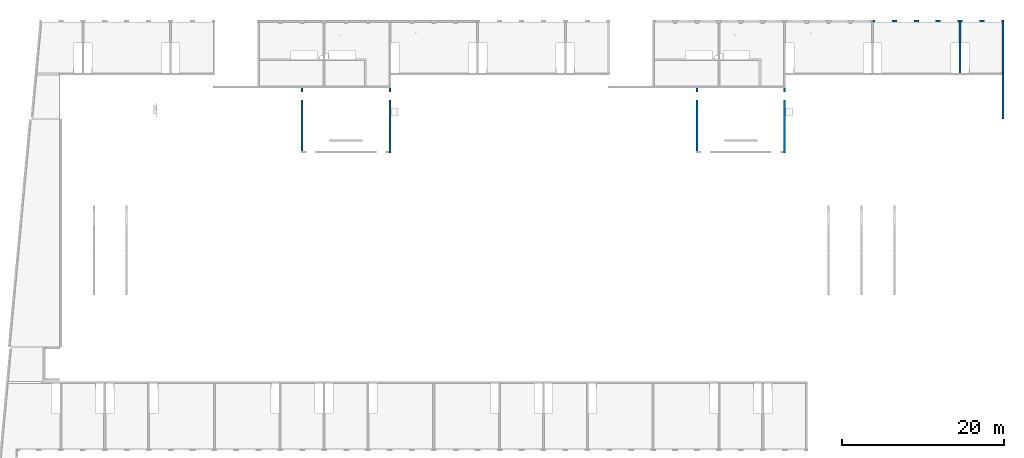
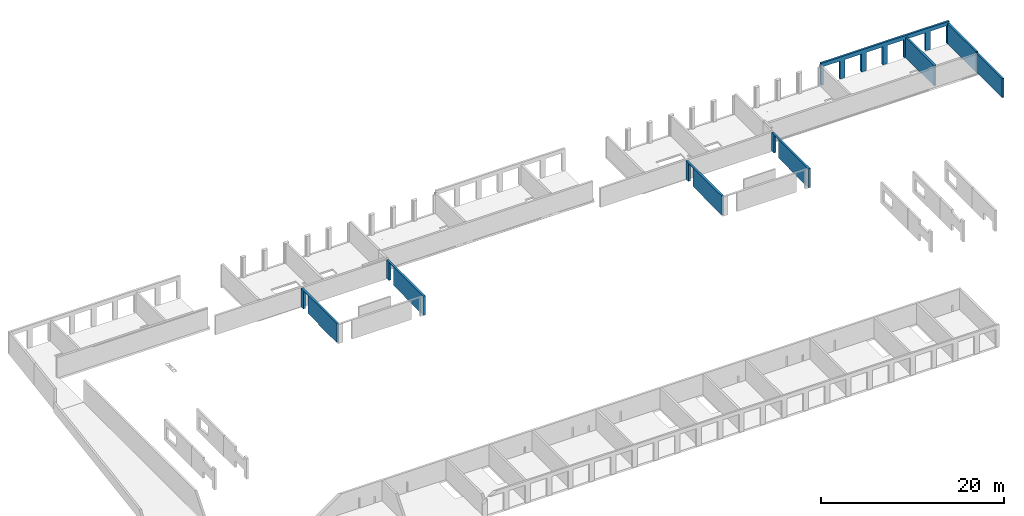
# One storey, part 9 of 12: 8 walls, 8 openings.
"""IFC2X3 building model written with IfcOpenShell, lengths in millimetres."""

from ifc_helpers import new_model, entity, si_unit, converted_unit, derived_unit, direction, frame, frame_2d, origin, place, context, subcontext, project, spatial, rectangle, extrude, faceted_brep, material, layer, layer_set, layer_usage, type_object, element, save


model = new_model("IFC2X3")

# Units and contexts
model_context = context("Model", 3, precision=0.01, world=origin(), true_north=direction((6.12303176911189e-17, 1.0)))
body_context = subcontext(model_context, "Body", "Model", "MODEL_VIEW")
ifc_project = project(units=[si_unit("LENGTHUNIT", "METRE", prefix="MILLI"), si_unit("AREAUNIT", "SQUARE_METRE"), si_unit("VOLUMEUNIT", "CUBIC_METRE"), converted_unit("PLANEANGLEUNIT", "DEGREE", entity("IfcRatioMeasure", 0.0174532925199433), si_unit("PLANEANGLEUNIT", "RADIAN"), dimensions=[0, 0, 0, 0, 0, 0, 0]), si_unit("MASSUNIT", "GRAM", prefix="KILO"), derived_unit("MASSDENSITYUNIT", [(si_unit("MASSUNIT", "GRAM", prefix="KILO"), 1), (si_unit("LENGTHUNIT", "METRE"), -3)]), si_unit("TIMEUNIT", "SECOND"), si_unit("FREQUENCYUNIT", "HERTZ"), si_unit("THERMODYNAMICTEMPERATUREUNIT", "DEGREE_CELSIUS"), derived_unit("THERMALTRANSMITTANCEUNIT", [(si_unit("MASSUNIT", "GRAM", prefix="KILO"), 1), (si_unit("THERMODYNAMICTEMPERATUREUNIT", "KELVIN"), -1), (si_unit("TIMEUNIT", "SECOND"), -3)]), derived_unit("VOLUMETRICFLOWRATEUNIT", [(si_unit("LENGTHUNIT", "METRE"), 3), (si_unit("TIMEUNIT", "SECOND"), -1)]), si_unit("ELECTRICCURRENTUNIT", "AMPERE"), si_unit("ELECTRICVOLTAGEUNIT", "VOLT"), si_unit("POWERUNIT", "WATT"), si_unit("FORCEUNIT", "NEWTON", prefix="KILO"), si_unit("ILLUMINANCEUNIT", "LUX"), si_unit("LUMINOUSFLUXUNIT", "LUMEN"), si_unit("LUMINOUSINTENSITYUNIT", "CANDELA"), derived_unit("USERDEFINED", [(si_unit("MASSUNIT", "GRAM", prefix="KILO"), -1), (si_unit("LENGTHUNIT", "METRE"), -2), (si_unit("TIMEUNIT", "SECOND"), 3), (si_unit("LUMINOUSFLUXUNIT", "LUMEN"), 1)]), derived_unit("LINEARVELOCITYUNIT", [(si_unit("LENGTHUNIT", "METRE"), 1), (si_unit("TIMEUNIT", "SECOND"), -1)]), si_unit("PRESSUREUNIT", "PASCAL"), derived_unit("USERDEFINED", [(si_unit("LENGTHUNIT", "METRE"), -2), (si_unit("MASSUNIT", "GRAM", prefix="KILO"), 1), (si_unit("TIMEUNIT", "SECOND"), -2)])], contexts=[model_context])

# Site, building, storey
site_placement = place(None, origin())
site = spatial("IfcSite", under=ifc_project, at=site_placement, Name="Default", CompositionType="ELEMENT")
building_placement = place(site_placement, origin())
building = spatial("IfcBuilding", under=site, at=building_placement, Name="niet gebruiken", CompositionType="ELEMENT")
storey_placement = place(building_placement, frame((0.0, 0.0, 6660.0)))
storey = spatial("IfcBuildingStorey", under=building, at=storey_placement, Name="02 tweede verdieping", CompositionType="ELEMENT", Elevation=6660.00000000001)

# Walls
ifc_material_1 = material(Name="NLRS_f2_beton ihwg")
ifc_layer_1 = layer(ifc_material_1, 250.0)
ifc_layer_set_1 = layer_set([ifc_layer_1], Name="Basic Wall:NLRS_22.21_WA_beton ihwg d=250_gen")
ifc_layer_usage_1 = layer_usage(ifc_layer_set_1, "AXIS2", "NEGATIVE", 125.0)
wall_type_1 = type_object("IfcWallType", Name="Basic Wall:NLRS_22.21_WA_beton ihwg d=250_gen", PredefinedType="STANDARD", material=ifc_layer_set_1)
wall_1_placement = place(storey_placement, frame((118800.0, 46746.0, -90.0), z_axis=(0.0, 0.0, 1.0), x_axis=(0.0, 1.0, 0.0)))
element("IfcWallStandardCase", 1, at=wall_1_placement, inside=storey, type_object=wall_type_1, material=ifc_layer_usage_1, Name="Basic Wall:NLRS_22.21_WA_beton ihwg d=250_gen", ObjectType="Basic Wall:NLRS_22.21_WA_beton ihwg d=250_gen", context=body_context, shape_type="SweptSolid", body=[
    extrude(rectangle(XDim=6239.99999999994, YDim=250.000000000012, at=frame_2d((3119.99999999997, -3.26849658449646e-12), x_axis=(-1.0, 0.0))), origin(), (0.0, 0.0, 1.0), 2720.00000000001),
])
wall_2_placement = place(storey_placement, frame((48600.0, 36856.0, -140.0), z_axis=(0.0, 0.0, 1.0), x_axis=(0.0, 1.0, 0.0)))
element("IfcWall", 2, at=wall_2_placement, inside=storey, type_object=wall_type_1, Name="Basic Wall:NLRS_22.21_WA_beton ihwg d=250_gen", ObjectType="Basic Wall:NLRS_22.21_WA_beton ihwg d=250_gen", context=body_context, shape_type="Brep", body=[
    faceted_brep([(6530.0, -125.0, 2470.0), (7555.0, -125.0, 2470.0), (7555.0, -125.0, 90.0), (8050.0, -125.0, 90.0), (8050.0, -125.0, 2550.0), (0.0, -125.0, 2550.0), (0.0, -125.0, 1940.0), (0.0, -125.0, 0.0), (4205.0, -125.0, 0.0), (4205.0, -125.0, 90.0), (4630.0, -125.0, 90.0), (5530.0, -125.0, 90.0), (6530.0, -125.0, 90.0), (7555.0, 125.0, 2470.0), (6530.0, 125.0, 2470.0), (6530.0, 125.0, 90.0), (4205.0, 125.0, 90.0), (4205.0, 125.0, 0.0), (250.0, 125.0, 0.0), (0.0, 125.0, 0.0), (0.0, 125.0, 1940.0), (0.0, 125.0, 2550.0), (250.0, 125.0, 2550.0), (8050.0, 125.0, 2550.0), (8050.0, 125.0, 90.0), (7555.0, 125.0, 90.0), (8050.0, 105.0, 2550.0), (4205.0, 125.000150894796, 90.0)], [[[0, 1, 2, 3, 4, 5, 6, 7, 8, 9, 10, 11, 12]], [[13, 14, 15, 16, 17, 18, 19, 20, 21, 22, 23, 24, 25]], [[7, 19, 18, 17, 8]], [[14, 0, 12, 15]], [[0, 14, 13, 1]], [[1, 13, 25, 2]], [[19, 7, 6, 5, 21, 20]], [[5, 4, 26, 23, 22, 21]], [[9, 16, 15, 12, 11, 10]], [[27, 9, 8, 17]], [[23, 26, 4, 3, 24]], [[3, 2, 25, 24]]]),
])
wall_3_placement = place(storey_placement, frame((37800.0, 37106.0, -140.0), z_axis=(0.0, 0.0, 1.0), x_axis=(0.0, 1.0, 0.0)))
element("IfcWall", 3, at=wall_3_placement, inside=storey, type_object=wall_type_1, Name="Basic Wall:NLRS_22.21_WA_beton ihwg d=250_gen", ObjectType="Basic Wall:NLRS_22.21_WA_beton ihwg d=250_gen", context=body_context, shape_type="Brep", body=[
    faceted_brep([(6280.0, -125.0, 2470.0), (7305.0, -125.0, 2470.0), (7305.0, -125.0, 90.0), (7800.0, -125.0, 90.0), (7800.0, -125.0, 2550.0), (720.0, -125.0, 2550.0), (0.0, -125.0, 2550.0), (0.0, -125.0, 0.0), (3955.0, -125.0, 0.0), (3955.0, -125.0, 90.0), (6280.0, -125.0, 90.0), (7305.0, 125.0, 2470.0), (6280.0, 125.0, 2470.0), (6280.0, 125.0, 90.0), (5280.0, 125.0, 90.0), (5211.60019199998, 125.0, 90.0), (4596.60019199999, 125.0, 90.0), (4380.0, 125.0, 90.0), (3955.0, 125.0, 90.0), (3955.0, 125.0, 0.0), (0.0, 125.0, 0.0), (0.0, 125.0, 2550.0), (7800.0, 125.0, 2550.0), (7800.0, 125.0, 90.0), (7305.0, 125.0, 90.0)], [[[0, 1, 2, 3, 4, 5, 6, 7, 8, 9, 10]], [[11, 12, 13, 14, 15, 16, 17, 18, 19, 20, 21, 22, 23, 24]], [[7, 20, 19, 8]], [[22, 4, 3, 23]], [[12, 0, 10, 13]], [[0, 12, 11, 1]], [[1, 11, 24, 2]], [[20, 7, 6, 21]], [[5, 4, 22, 21, 6]], [[3, 2, 24, 23]], [[18, 9, 8, 19]], [[9, 18, 17, 16, 15, 14, 13, 10]]]),
])
ifc_layer_usage_2 = layer_usage(ifc_layer_set_1, "AXIS2", "NEGATIVE", 125.0)
wall_4_placement = place(storey_placement, frame((124075.0, 52986.0, -90.0), z_axis=(0.0, 0.0, 1.0), x_axis=(0.0, -1.0, 0.0)))
element("IfcWallStandardCase", 4, at=wall_4_placement, inside=storey, type_object=wall_type_1, material=ifc_layer_usage_2, Name="Basic Wall:NLRS_22.21_WA_beton ihwg d=250_gen", ObjectType="Basic Wall:NLRS_22.21_WA_beton ihwg d=250_gen", context=body_context, shape_type="SweptSolid", body=[
    extrude(rectangle(XDim=6239.99999999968, YDim=250.000000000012, at=frame_2d((3119.99999999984, -2.8421709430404e-14), x_axis=(-1.0, 0.0))), origin(), (0.0, 0.0, 1.0), 2720.000000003),
])
ifc_layer_usage_3 = layer_usage(ifc_layer_set_1, "AXIS2", "NEGATIVE", 125.0)
wall_5_placement = place(storey_placement, frame((124075.0, 46746.0, -50.0), z_axis=(0.0, 0.0, 1.0), x_axis=(0.0, -1.0, 0.0)))
element("IfcWallStandardCase", 5, at=wall_5_placement, inside=storey, type_object=wall_type_1, material=ifc_layer_usage_3, Name="Basic Wall:NLRS_22.21_WA_beton ihwg d=250_gen", ObjectType="Basic Wall:NLRS_22.21_WA_beton ihwg d=250_gen", context=body_context, shape_type="SweptSolid", body=[
    extrude(rectangle(XDim=5685.00000000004, YDim=250.000000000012, at=frame_2d((2842.50000000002, 0.0), x_axis=(-1.0, 0.0))), origin(), (0.0, 0.0, 1.0), 2549.99999999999),
])
wall_6_placement = place(storey_placement, frame((97200.0, 36856.0, -140.0), z_axis=(0.0, 0.0, 1.0), x_axis=(0.0, 1.0, 0.0)))
element("IfcWall", 6, at=wall_6_placement, inside=storey, type_object=wall_type_1, Name="Basic Wall:NLRS_22.21_WA_beton ihwg d=250_gen", ObjectType="Basic Wall:NLRS_22.21_WA_beton ihwg d=250_gen", context=body_context, shape_type="Brep", body=[
    faceted_brep([(6530.0, -125.0, 2470.0), (7555.0, -125.0, 2470.0), (7555.0, -125.0, 90.0), (8050.0, -125.0, 90.0), (8050.0, -125.0, 2550.0), (0.0, -125.0, 2550.0), (0.0, -125.0, 1940.0), (0.0, -125.0, 0.0), (4205.0, -125.0, 0.0), (4205.0, -125.0, 90.0), (4630.0, -125.0, 90.0), (5530.0, -125.0, 90.0), (6530.0, -125.0, 90.0), (7555.0, 125.0, 2470.0), (6530.0, 125.0, 2470.0), (6530.0, 125.0, 90.0), (4205.0, 125.0, 90.0), (4205.0, 125.0, 0.0), (250.0, 125.0, 0.0), (0.0, 125.0, 0.0), (0.0, 125.0, 1940.0), (0.0, 125.0, 2550.0), (250.0, 125.0, 2550.0), (8050.0, 125.0, 2550.0), (8050.0, 125.0, 90.0), (7555.0, 125.0, 90.0), (4205.0, 125.000150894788, 90.0)], [[[0, 1, 2, 3, 4, 5, 6, 7, 8, 9, 10, 11, 12]], [[13, 14, 15, 16, 17, 18, 19, 20, 21, 22, 23, 24, 25]], [[7, 19, 18, 17, 8]], [[14, 0, 12, 15]], [[0, 14, 13, 1]], [[1, 13, 25, 2]], [[19, 7, 6, 5, 21, 20]], [[23, 22, 21, 5, 4]], [[9, 16, 15, 12, 11, 10]], [[26, 9, 8, 17]], [[23, 4, 3, 24]], [[3, 2, 25, 24]]]),
])
wall_7_placement = place(storey_placement, frame((86400.0, 37106.0, -140.0), z_axis=(0.0, 0.0, 1.0), x_axis=(0.0, 1.0, 0.0)))
element("IfcWall", 7, at=wall_7_placement, inside=storey, type_object=wall_type_1, Name="Basic Wall:NLRS_22.21_WA_beton ihwg d=250_gen", ObjectType="Basic Wall:NLRS_22.21_WA_beton ihwg d=250_gen", context=body_context, shape_type="Brep", body=[
    faceted_brep([(6280.0, -125.0, 2470.0), (7305.0, -125.0, 2470.0), (7305.0, -125.0, 90.0), (7800.0, -125.0, 90.0), (7800.0, -125.0, 2550.0), (720.0, -125.0, 2550.0), (0.0, -125.0, 2550.0), (0.0, -125.0, 0.0), (3955.0, -125.0, 0.0), (3955.0, -125.0, 90.0), (6280.0, -125.0, 90.0), (7305.0, 125.0, 2470.0), (6280.0, 125.0, 2470.0), (6280.0, 125.0, 90.0), (5280.0, 125.0, 90.0), (5212.5997070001, 125.0, 90.0), (4597.5997070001, 125.0, 90.0), (4380.0, 125.0, 90.0), (3955.0, 125.0, 90.0), (3955.0, 125.0, 0.0), (0.0, 125.0, 0.0), (0.0, 125.0, 2550.0), (7800.0, 125.0, 2550.0), (7800.0, 125.0, 90.0), (7305.0, 125.0, 90.0)], [[[0, 1, 2, 3, 4, 5, 6, 7, 8, 9, 10]], [[11, 12, 13, 14, 15, 16, 17, 18, 19, 20, 21, 22, 23, 24]], [[7, 20, 19, 8]], [[22, 4, 3, 23]], [[12, 0, 10, 13]], [[0, 12, 11, 1]], [[1, 11, 24, 2]], [[20, 7, 6, 21]], [[5, 4, 22, 21, 6]], [[9, 18, 17, 16, 15, 14, 13, 10]], [[18, 9, 8, 19]], [[3, 2, 24, 23]]]),
])

# Wall, openings
ifc_material_2 = material(Name="NLRS_f2_beton prefab")
ifc_layer_2 = layer(ifc_material_2, 250.0)
ifc_layer_set_2 = layer_set([ifc_layer_2], Name="Basic Wall:NLRS_21.21_WA_beton prefab d=250_gen")
ifc_layer_usage_4 = layer_usage(ifc_layer_set_2, "AXIS2", "NEGATIVE", 125.0)
wall_type_2 = type_object("IfcWallType", Name="Basic Wall:NLRS_21.21_WA_beton prefab d=250_gen", PredefinedType="STANDARD", material=ifc_layer_set_2)
wall_8_placement = place(storey_placement, frame((108010.0, 53131.0, -70.0)))
wall_8 = element("IfcWallStandardCase", 8, at=wall_8_placement, inside=storey, type_object=wall_type_2, material=ifc_layer_usage_4, Name="Basic Wall:NLRS_21.21_WA_beton prefab d=250_gen", ObjectType="Basic Wall:NLRS_21.21_WA_beton prefab d=250_gen", context=body_context, shape_type="SweptSolid", body=[
    extrude(rectangle(XDim=16190.0, YDim=249.999999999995, at=frame_2d((8094.99999999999, 2.0961010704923e-12), x_axis=(-1.0, 0.0))), origin(), (0.0, 0.0, 1.0), 2950.00000000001),
])
opening_1_placement = place(wall_8_placement, origin())
element("IfcOpeningElement", 9, at=opening_1_placement, cuts=wall_8, Name="Basic Wall:NLRS_21.21_WA_beton prefab d=250_gen", ObjectType="Opening", context=body_context, shape_type="SweptSolid", body=[
    extrude(rectangle(XDim=2440.0, YDim=2080.0, at=frame_2d((0.0, 8.64019966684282e-12), x_axis=(1.0, 0.0))), frame((14840.0, -1649.0, 1200.0), z_axis=(0.0, 1.0, 0.0), x_axis=(0.0, 0.0, 1.0)), (0.0, 0.0, 1.0), 3048.0),
])
opening_2_placement = place(wall_8_placement, origin())
element("IfcOpeningElement", 10, at=opening_2_placement, cuts=wall_8, Name="Basic Wall:NLRS_21.21_WA_beton prefab d=250_gen", ObjectType="Opening", context=body_context, shape_type="SweptSolid", body=[
    extrude(rectangle(XDim=2440.0, YDim=2080.0, at=frame_2d((0.0, 8.64019966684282e-12), x_axis=(1.0, 0.0))), frame((12140.0, -1649.0, 1200.0), z_axis=(0.0, 1.0, 0.0), x_axis=(0.0, 0.0, 1.0)), (0.0, 0.0, 1.0), 3048.0),
])
opening_3_placement = place(wall_8_placement, origin())
element("IfcOpeningElement", 11, at=opening_3_placement, cuts=wall_8, Name="Basic Wall:NLRS_21.21_WA_beton prefab d=250_gen", ObjectType="Opening", context=body_context, shape_type="SweptSolid", body=[
    extrude(rectangle(XDim=2440.0, YDim=2080.0, at=frame_2d((0.0, -8.64019966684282e-12), x_axis=(1.0, 0.0))), frame((9440.0, -1649.0, 1200.0), z_axis=(0.0, 1.0, 0.0), x_axis=(0.0, 0.0, 1.0)), (0.0, 0.0, 1.0), 3048.0),
])
opening_4_placement = place(wall_8_placement, origin())
element("IfcOpeningElement", 12, at=opening_4_placement, cuts=wall_8, Name="Basic Wall:NLRS_21.21_WA_beton prefab d=250_gen", ObjectType="Opening", context=body_context, shape_type="SweptSolid", body=[
    extrude(rectangle(XDim=2440.0, YDim=2080.0, at=frame_2d((0.0, 8.64019966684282e-12), x_axis=(1.0, 0.0))), frame((6740.0, -1649.0, 1200.0), z_axis=(0.0, 1.0, 0.0), x_axis=(0.0, 0.0, 1.0)), (0.0, 0.0, 1.0), 3048.0),
])
opening_5_placement = place(wall_8_placement, origin())
element("IfcOpeningElement", 13, at=opening_5_placement, cuts=wall_8, Name="Basic Wall:NLRS_21.21_WA_beton prefab d=250_gen", ObjectType="Opening", context=body_context, shape_type="SweptSolid", body=[
    extrude(rectangle(XDim=2440.0, YDim=2080.0, at=frame_2d((0.0, 8.64019966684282e-12), x_axis=(1.0, 0.0))), frame((4040.0, -1649.0, 1200.0), z_axis=(0.0, 1.0, 0.0), x_axis=(0.0, 0.0, 1.0)), (0.0, 0.0, 1.0), 3048.0),
])
opening_6_placement = place(wall_8_placement, origin())
element("IfcOpeningElement", 14, at=opening_6_placement, cuts=wall_8, Name="Basic Wall:NLRS_21.21_WA_beton prefab d=250_gen", ObjectType="Opening", context=body_context, shape_type="SweptSolid", body=[
    extrude(rectangle(XDim=2440.0, YDim=2080.0, at=frame_2d((0.0, 8.64019966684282e-12), x_axis=(1.0, 0.0))), frame((1340.0, -1649.0, 1200.0), z_axis=(0.0, 1.0, 0.0), x_axis=(0.0, 0.0, 1.0)), (0.0, 0.0, 1.0), 3048.0),
])
opening_7_placement = place(wall_8_placement, origin())
element("IfcOpeningElement", 15, at=opening_7_placement, cuts=wall_8, Name="Basic Wall:NLRS_21.21_WA_beton prefab d=250_gen", ObjectType="Opening", context=body_context, shape_type="SweptSolid", body=[
    extrude(rectangle(XDim=2440.0, YDim=2080.0, at=frame_2d((5.6843418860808e-13, 8.64019966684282e-12), x_axis=(1.0, 0.0))), frame((12140.0, -1649.0, 4170.0), z_axis=(0.0, 1.0, 0.0), x_axis=(0.0, 0.0, 1.0)), (0.0, 0.0, 1.0), 3048.0),
])
opening_8_placement = place(wall_8_placement, origin())
element("IfcOpeningElement", 16, at=opening_8_placement, cuts=wall_8, Name="Basic Wall:NLRS_21.21_WA_beton prefab d=250_gen", ObjectType="Opening", context=body_context, shape_type="SweptSolid", body=[
    extrude(rectangle(XDim=19.9999999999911, YDim=2495.00000000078, at=frame_2d((2.16537898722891e-12, 8.75388650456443e-12), x_axis=(1.0, 0.0))), frame((14942.4999999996, 125.0, 2940.0), z_axis=(0.0, -1.0, 0.0), x_axis=(0.0, 0.0, 1.0)), (0.0, 0.0, 1.0), 250.0),
])

save(model, "model.ifc")
